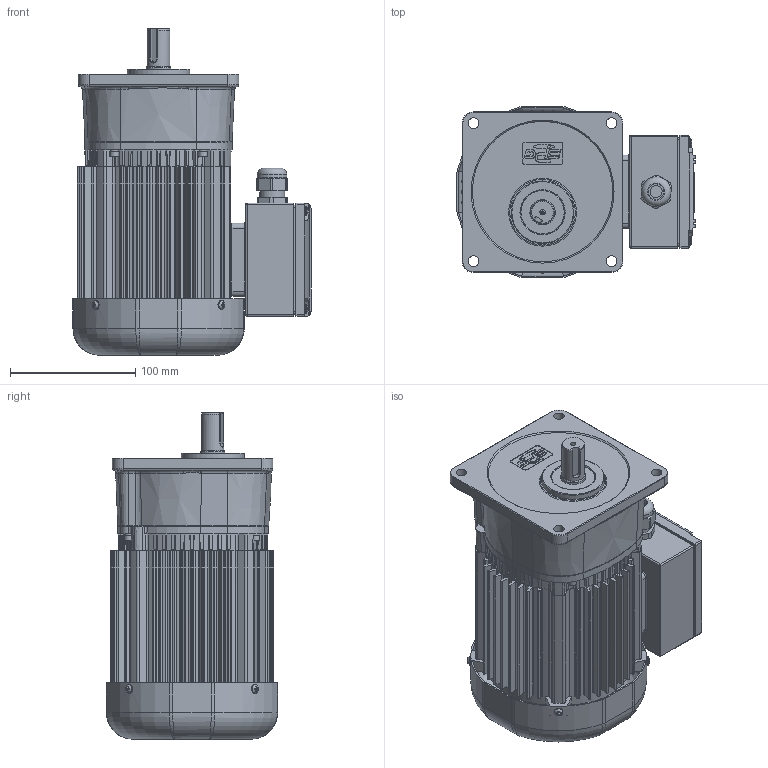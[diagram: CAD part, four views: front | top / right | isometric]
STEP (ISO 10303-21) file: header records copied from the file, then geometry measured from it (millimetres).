
FILE_DESCRIPTION(/* description */ (''),/* implementation_level */ '2;1');
FILE_NAME(/* name */ 'Z:\동력 3D 파일\PAK18_0.2kW_3D.stp',/* time_stamp */ '2021-11-09T08:20:43+09:00',/* author */ ('jaebok'),/* organization */ (''),/* preprocessor_version */ 'ST-DEVELOPER v18.1',/* originating_system */ 'Autodesk Inventor 2022',/* authorisation */ '');
FILE_SCHEMA (('AUTOMOTIVE_DESIGN { 1 0 10303 214 3 1 1 }'));
Products named in the file (1): 부품1
Bounding box: 189.7 x 136.4 x 260 mm (x, y, z)
Volume: 1101959.3 mm3; surface area: 413330.4 mm2
Topology: 1 solids, 40 shells, 2208 faces, 5689 edges, 3601 vertices
Faces by surface type: plane 979, cylinder 637, bspline 238, cone 190, torus 142, sphere 22
Full cylindrical faces by diameter (mm): 2 x1, 3.242 x9, 3.25 x1, 3.4 x4, 3.6 x4, 4 x25, 4.5 x4, 4.917 x4, 5 x14, 5.386 x4, 6 x8, 6.5 x4, 7 x16, 8 x1, 8.6 x4, 10 x1, 12 x1, 12.5 x1, 15 x1, 18 x1, 19.6 x1, 20 x4, 21 x1, 23 x2, 23.6 x1, 25 x2, 27 x1, 30 x2, 33 x1, 34 x1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
Entity records: 79179 total; most frequent: CARTESIAN_POINT 23615, ORIENTED_EDGE 11312, DIRECTION 11072, EDGE_CURVE 5656, AXIS2_PLACEMENT_3D 4343, VERTEX_POINT 3601, EDGE_LOOP 2388, LINE 2386
